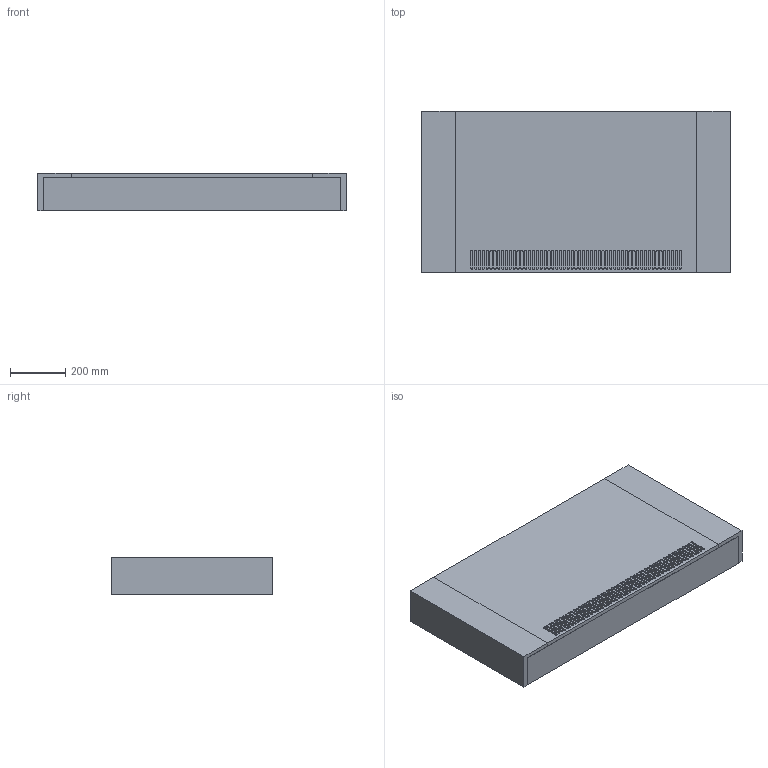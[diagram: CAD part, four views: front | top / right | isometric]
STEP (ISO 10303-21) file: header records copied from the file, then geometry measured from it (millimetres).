
FILE_DESCRIPTION (( 'STEP AP214' ), '1' );
FILE_NAME ('PFWSL_square_model03_4-pipe_v2.STEP', '2024-11-11T13:33:11', ( '' ), ( '' ), 'SwSTEP 2.0', 'SolidWorks 2023', '' );
FILE_SCHEMA (( 'AUTOMOTIVE_DESIGN' ));
Length unit declared in the file: inch
Products named in the file (1): PFWSL_square_model03_4-pipe_v2
Bounding box: 1116.01 x 582.61 x 134.94 mm (x, y, z)
Volume: 66585712.4 mm3; surface area: 3529290.5 mm2
Topology: 25 solids, 25 shells, 546 faces, 1426 edges, 948 vertices
Faces by surface type: plane 332, cylinder 206, torus 8
Entity records: 17425 total; most frequent: DIRECTION 2948, CARTESIAN_POINT 2921, ORIENTED_EDGE 2852, EDGE_CURVE 1426, LINE 998, VECTOR 998, AXIS2_PLACEMENT_3D 975, VERTEX_POINT 948
